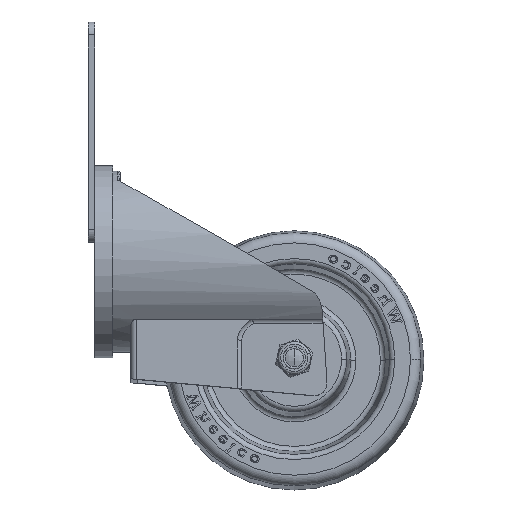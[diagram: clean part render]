
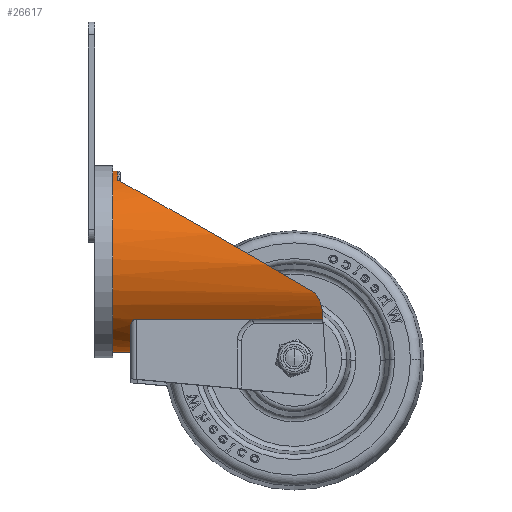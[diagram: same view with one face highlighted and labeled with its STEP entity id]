
A CAD part, left-side view. The second image highlights one B-rep face of the part: STEP entity #26617.
In plain terms, the highlighted cylindrical face has radius 35 mm (diameter 70 mm), a partial arc.
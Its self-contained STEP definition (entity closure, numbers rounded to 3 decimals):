
#304 = CARTESIAN_POINT ( 'NONE',  ( 0., 14., 35. ) ) ;
#521 = DIRECTION ( 'NONE',  ( 0., -1., 0. ) ) ;
#683 = AXIS2_PLACEMENT_3D ( 'NONE', #15991, #521, #8376 ) ;
#1009 = DIRECTION ( 'NONE',  ( 0., -1., 0. ) ) ;
#1265 = CARTESIAN_POINT ( 'NONE',  ( -26.5, 16., 22.864 ) ) ;
#1287 = CARTESIAN_POINT ( 'NONE',  ( -26.5, 60.931, 22.864 ) ) ;
#1947 = CIRCLE ( 'NONE', #10927, 35. ) ;
#2683 = ORIENTED_EDGE ( 'NONE', *, *, #46948, .F. ) ;
#2841 = CARTESIAN_POINT ( 'NONE',  ( -32.903, 24.112, -22.29 ) ) ;
#2941 = DIRECTION ( 'NONE',  ( 0., -1., 0. ) ) ;
#3432 = ORIENTED_EDGE ( 'NONE', *, *, #48298, .T. ) ;
#4558 = EDGE_CURVE ( 'NONE', #22576, #37450, #41978, .T. ) ;
#5090 = CARTESIAN_POINT ( 'NONE',  ( -26.5, 88., 22.864 ) ) ;
#5689 = VERTEX_POINT ( 'NONE', #1287 ) ;
#6295 = CARTESIAN_POINT ( 'NONE',  ( 0., 90., -35. ) ) ;
#6727 = ORIENTED_EDGE ( 'NONE', *, *, #41775, .T. ) ;
#6934 = CARTESIAN_POINT ( 'NONE',  ( -30.591, 87.247, 17.035 ) ) ;
#6979 = CARTESIAN_POINT ( 'NONE',  ( -26.5, 90., 22.864 ) ) ;
#7867 = EDGE_CURVE ( 'NONE', #15199, #22896, #41170, .T. ) ;
#8168 = CARTESIAN_POINT ( 'NONE',  ( -26.479, 15.673, 22.888 ) ) ;
#8376 = DIRECTION ( 'NONE',  ( 0., 0., -1. ) ) ;
#8772 = CARTESIAN_POINT ( 'NONE',  ( -24.5, 14., 24.995 ) ) ;
#9148 = EDGE_CURVE ( 'NONE', #19727, #22576, #46932, .T. ) ;
#9238 = VECTOR ( 'NONE', #21806, 1000. ) ;
#9534 = ORIENTED_EDGE ( 'NONE', *, *, #7867, .T. ) ;
#10021 = CARTESIAN_POINT ( 'NONE',  ( 0., 90., 0. ) ) ;
#10274 = CARTESIAN_POINT ( 'NONE',  ( -27.176, 88.05, 22.081 ) ) ;
#10484 = DIRECTION ( 'NONE',  ( 0., 0., 1. ) ) ;
#10927 = AXIS2_PLACEMENT_3D ( 'NONE', #44745, #37145, #10484 ) ;
#11996 = CARTESIAN_POINT ( 'NONE',  ( -25.602, 14.313, 23.866 ) ) ;
#13816 = DIRECTION ( 'NONE',  ( 0., -1., 0. ) ) ;
#14556 = CARTESIAN_POINT ( 'NONE',  ( -32.394, 85.299, 13.259 ) ) ;
#15199 = VERTEX_POINT ( 'NONE', #5090 ) ;
#15803 = CARTESIAN_POINT ( 'NONE',  ( -25.977, 14.645, 23.456 ) ) ;
#15991 = CARTESIAN_POINT ( 'NONE',  ( 0., 7., 0. ) ) ;
#16830 = DIRECTION ( 'NONE',  ( 0., 1., 0. ) ) ;
#17212 = ORIENTED_EDGE ( 'NONE', *, *, #26857, .F. ) ;
#17565 = VERTEX_POINT ( 'NONE', #45936 ) ;
#18321 = CARTESIAN_POINT ( 'NONE',  ( -16.22, 9., -31.015 ) ) ;
#19081 = CARTESIAN_POINT ( 'NONE',  ( -32.55, 85., 12.864 ) ) ;
#19618 = CARTESIAN_POINT ( 'NONE',  ( -26.35, 15.227, 23.036 ) ) ;
#19727 = VERTEX_POINT ( 'NONE', #304 ) ;
#20115 = ORIENTED_EDGE ( 'NONE', *, *, #26495, .F. ) ;
#21306 = LINE ( 'NONE', #6295, #32858 ) ;
#21802 = DIRECTION ( 'NONE',  ( 0., -1., 0. ) ) ;
#21806 = DIRECTION ( 'NONE',  ( 0., -1., 0. ) ) ;
#21821 = ORIENTED_EDGE ( 'NONE', *, *, #9148, .F. ) ;
#21943 = CARTESIAN_POINT ( 'NONE',  ( -26.5, 88., 22.864 ) ) ;
#21946 = CARTESIAN_POINT ( 'NONE',  ( 0., 7., 35. ) ) ;
#22057 = CARTESIAN_POINT ( 'NONE',  ( -26.5, 90., 22.864 ) ) ;
#22237 = CARTESIAN_POINT ( 'NONE',  ( -25.392, 14.195, 24.091 ) ) ;
#22446 = CARTESIAN_POINT ( 'NONE',  ( -32.55, 85., 12.864 ) ) ;
#22576 = VERTEX_POINT ( 'NONE', #21946 ) ;
#22636 = CARTESIAN_POINT ( 'NONE',  ( -39.47, 54.673, -4.646 ) ) ;
#22820 = AXIS2_PLACEMENT_3D ( 'NONE', #10021, #13816, #29315 ) ;
#22896 = VERTEX_POINT ( 'NONE', #38343 ) ;
#23361 = CARTESIAN_POINT ( 'NONE',  ( 0., 90., 35. ) ) ;
#23423 = CARTESIAN_POINT ( 'NONE',  ( -26.404, 15.369, 22.974 ) ) ;
#23623 = VECTOR ( 'NONE', #2941, 1000. ) ;
#24276 = CARTESIAN_POINT ( 'NONE',  ( -24.733, 14., 24.767 ) ) ;
#24698 = EDGE_LOOP ( 'NONE', ( #21821, #17212, #6727, #20115, #2683, #9534, #50182, #3432, #48106, #35527 ) ) ;
#25132 = LINE ( 'NONE', #22057, #9238 ) ;
#25779 = CARTESIAN_POINT ( 'NONE',  ( -32.225, 85.576, 13.667 ) ) ;
#26276 = CARTESIAN_POINT ( 'NONE',  ( -29.002, 87.879, 19.619 ) ) ;
#26495 = EDGE_CURVE ( 'NONE', #5689, #29127, #30615, .T. ) ;
#26617 = ADVANCED_FACE ( 'NONE', ( #40452 ), #47828, .T. ) ;
#26857 = EDGE_CURVE ( 'NONE', #17565, #19727, #47109, .T. ) ;
#27476 = CARTESIAN_POINT ( 'NONE',  ( -26.5, 16., 22.864 ) ) ;
#27622 = CARTESIAN_POINT ( 'NONE',  ( 0., 7., -35. ) ) ;
#29127 = VERTEX_POINT ( 'NONE', #1265 ) ;
#29133 = VERTEX_POINT ( 'NONE', #35518 ) ;
#29315 = DIRECTION ( 'NONE',  ( 0., 0., -1. ) ) ;
#29329 = CARTESIAN_POINT ( 'NONE',  ( -29.559, 87.727, 18.769 ) ) ;
#30155 = VERTEX_POINT ( 'NONE', #43957 ) ;
#30615 = LINE ( 'NONE', #6979, #23623 ) ;
#30785 = CARTESIAN_POINT ( 'NONE',  ( -25.886, 14.553, 23.557 ) ) ;
#31059 =( BOUNDED_CURVE ( )  B_SPLINE_CURVE ( 3, ( #19081, #22636, #2841, #18321 ),
 .UNSPECIFIED., .F., .T. ) 
 B_SPLINE_CURVE_WITH_KNOTS ( ( 4, 4 ),
 ( 4.336, 5.801 ),
 .UNSPECIFIED. ) 
 CURVE ( )  GEOMETRIC_REPRESENTATION_ITEM ( )  RATIONAL_B_SPLINE_CURVE ( ( 1., 0.829, 0.829, 1. ) ) 
 REPRESENTATION_ITEM ( '' )  );
#31292 = EDGE_CURVE ( 'NONE', #22896, #30155, #31059, .T. ) ;
#32858 = VECTOR ( 'NONE', #21802, 1000. ) ;
#33865 = CARTESIAN_POINT ( 'NONE',  ( -31.668, 86.309, 14.911 ) ) ;
#35518 = CARTESIAN_POINT ( 'NONE',  ( 0., 9., -35. ) ) ;
#35527 = ORIENTED_EDGE ( 'NONE', *, *, #4558, .F. ) ;
#35880 = CARTESIAN_POINT ( 'NONE',  ( 0., 14., 0. ) ) ;
#37145 = DIRECTION ( 'NONE',  ( 0., -1., 0. ) ) ;
#37450 = VERTEX_POINT ( 'NONE', #27622 ) ;
#37690 = CARTESIAN_POINT ( 'NONE',  ( -26.5, 15.836, 22.864 ) ) ;
#38098 = VECTOR ( 'NONE', #1009, 1000. ) ;
#38343 = CARTESIAN_POINT ( 'NONE',  ( -32.55, 85., 12.864 ) ) ;
#40452 = FACE_OUTER_BOUND ( 'NONE', #24698, .T. ) ;
#41170 = B_SPLINE_CURVE_WITH_KNOTS ( 'NONE', 3,
 ( #21943, #10274, #45026, #26276, #29329, #6934, #48599, #33865, #41708, #25779, #14556, #22446 ),
 .UNSPECIFIED., .F., .F.,
 ( 4, 2, 2, 2, 2, 4 ),
 ( 0., 0.003, 0.006, 0.009, 0.011, 0.012 ),
 .UNSPECIFIED. ) ;
#41404 = AXIS2_PLACEMENT_3D ( 'NONE', #35880, #16830, #43478 ) ;
#41708 = CARTESIAN_POINT ( 'NONE',  ( -31.862, 86.081, 14.493 ) ) ;
#41775 = EDGE_CURVE ( 'NONE', #17565, #29127, #41854, .T. ) ;
#41854 = B_SPLINE_CURVE_WITH_KNOTS ( 'NONE', 3,
 ( #8772, #24276, #46753, #22237, #11996, #30785, #15803, #49368, #42929, #19618, #23423, #8168, #37690, #27476 ),
 .UNSPECIFIED., .F., .F.,
 ( 4, 2, 2, 2, 2, 2, 4 ),
 ( 0., 0.001, 0.002, 0.002, 0.003, 0.003, 0.004 ),
 .UNSPECIFIED. ) ;
#41978 = CIRCLE ( 'NONE', #683, 35. ) ;
#42929 = CARTESIAN_POINT ( 'NONE',  ( -26.219, 14.968, 23.185 ) ) ;
#43478 = DIRECTION ( 'NONE',  ( -1., 0., 0. ) ) ;
#43957 = CARTESIAN_POINT ( 'NONE',  ( -16.22, 9., -31.015 ) ) ;
#44745 = CARTESIAN_POINT ( 'NONE',  ( 0., 9., 0. ) ) ;
#45026 = CARTESIAN_POINT ( 'NONE',  ( -27.811, 88.041, 21.274 ) ) ;
#45936 = CARTESIAN_POINT ( 'NONE',  ( -24.5, 14., 24.995 ) ) ;
#46753 = CARTESIAN_POINT ( 'NONE',  ( -24.957, 14.039, 24.54 ) ) ;
#46932 = LINE ( 'NONE', #23361, #38098 ) ;
#46948 = EDGE_CURVE ( 'NONE', #15199, #5689, #25132, .T. ) ;
#47109 = CIRCLE ( 'NONE', #41404, 35. ) ;
#47828 = CYLINDRICAL_SURFACE ( 'NONE', #22820, 35. ) ;
#48106 = ORIENTED_EDGE ( 'NONE', *, *, #48902, .T. ) ;
#48298 = EDGE_CURVE ( 'NONE', #30155, #29133, #1947, .T. ) ;
#48599 = CARTESIAN_POINT ( 'NONE',  ( -31.052, 86.926, 16.176 ) ) ;
#48902 = EDGE_CURVE ( 'NONE', #29133, #37450, #21306, .T. ) ;
#49368 = CARTESIAN_POINT ( 'NONE',  ( -26.144, 14.853, 23.27 ) ) ;
#50182 = ORIENTED_EDGE ( 'NONE', *, *, #31292, .T. ) ;
